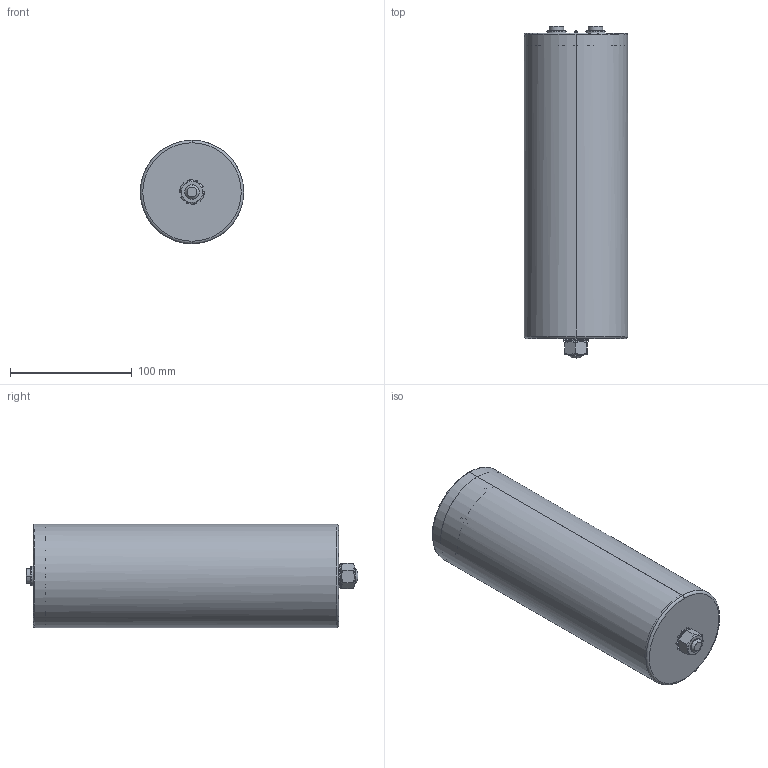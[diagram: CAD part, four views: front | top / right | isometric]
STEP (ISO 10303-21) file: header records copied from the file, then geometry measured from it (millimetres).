
FILE_DESCRIPTION (( 'STEP AP214' ), '1' );
FILE_NAME ('B25690 Series ¦µ85 Hc251 Ht257.STEP', '2025-01-14T07:15:52', ( '' ), ( '' ), 'SwSTEP 2.0', 'SolidWorks 2019', '' );
FILE_SCHEMA (( 'AUTOMOTIVE_DESIGN' ));
Length unit declared in the file: millimetre
Products named in the file (1): B25690 Series 朴85 Hc251 Ht257
Bounding box: 85 x 273 x 85 mm (x, y, z)
Volume: 132769.1 mm3; surface area: 170463.2 mm2
Topology: 1 solids, 2 shells, 275 faces, 754 edges, 488 vertices
Faces by surface type: plane 88, cylinder 70, cone 47, bspline 40, torus 30
Entity records: 9636 total; most frequent: CARTESIAN_POINT 3070, ORIENTED_EDGE 1500, DIRECTION 1212, EDGE_CURVE 750, VERTEX_POINT 488, AXIS2_PLACEMENT_3D 472, EDGE_LOOP 304, ADVANCED_FACE 275
